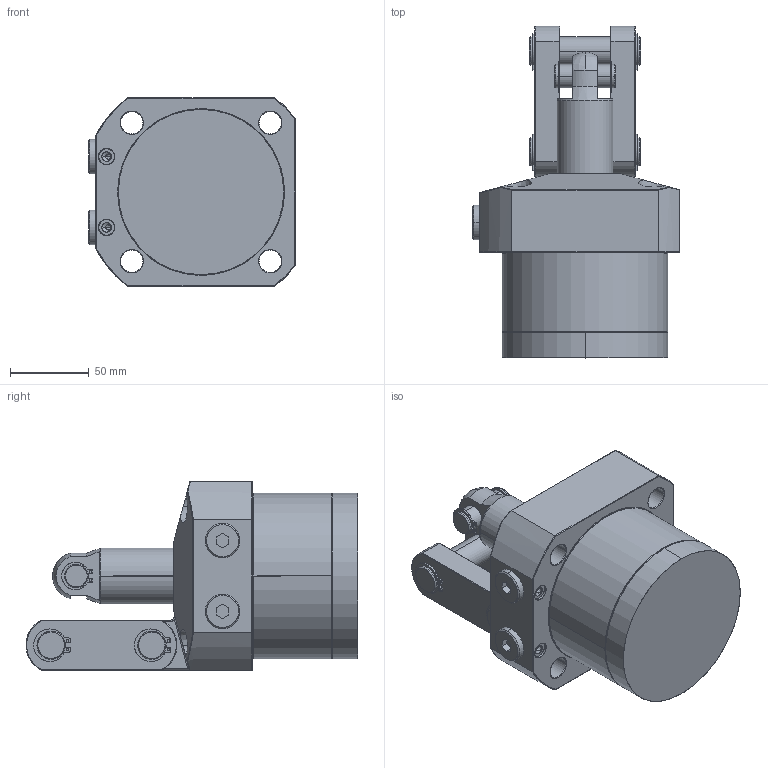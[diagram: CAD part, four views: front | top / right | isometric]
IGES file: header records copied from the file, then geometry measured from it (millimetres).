
Start section: SolidWorks IGES file using analytic representation for surfaces
Global section: file name: D:\abhilash\nijil\cylinder\LKA Series\con v lka\105lk\lk10cl\105 CL PT\0402-1053.IGS; native system: SolidWorks 2010; preprocessor: SolidWorks 2010; author: nidheesh; date: 130730.102322; units: millimetre
Bounding box: 131.5 x 210.94 x 120 mm (x, y, z)
Surface area: 124125.2 mm2 (no closed solid volume)
Topology: 0 solids, 0 shells, 333 faces, 4672 edges, 4671 vertices
Faces by surface type: revolution 199, bspline 134
